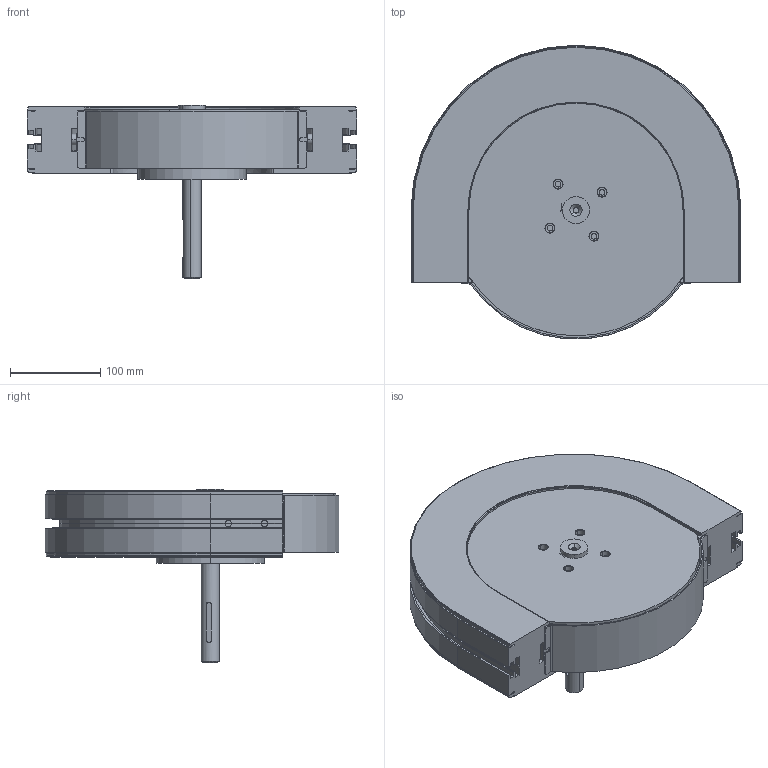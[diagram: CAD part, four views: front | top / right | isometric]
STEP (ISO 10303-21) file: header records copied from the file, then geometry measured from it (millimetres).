
FILE_DESCRIPTION (( 'STEP AP214' ), '1' );
FILE_NAME ('FSWD-DD.step', '2017-04-07T11:10:18', ( '' ), ( '' ), 'SwSTEP 2.0', 'SolidWorks 2016', '' );
FILE_SCHEMA (( 'AUTOMOTIVE_DESIGN' ));
Length unit declared in the file: millimetre
Products named in the file (1): FSWD-DD
Bounding box: 365 x 324.66 x 192 mm (x, y, z)
Volume: 4122644.2 mm3; surface area: 604657.4 mm2
Topology: 2 solids, 9 shells, 703 faces, 1847 edges, 1198 vertices
Faces by surface type: plane 321, cylinder 299, cone 50, torus 25, bspline 8
Entity records: 28278 total; most frequent: CARTESIAN_POINT 4841, DIRECTION 3795, ORIENTED_EDGE 3694, EDGE_CURVE 1847, AXIS2_PLACEMENT_3D 1388, VERTEX_POINT 1198, VECTOR 1019, LINE 1019
